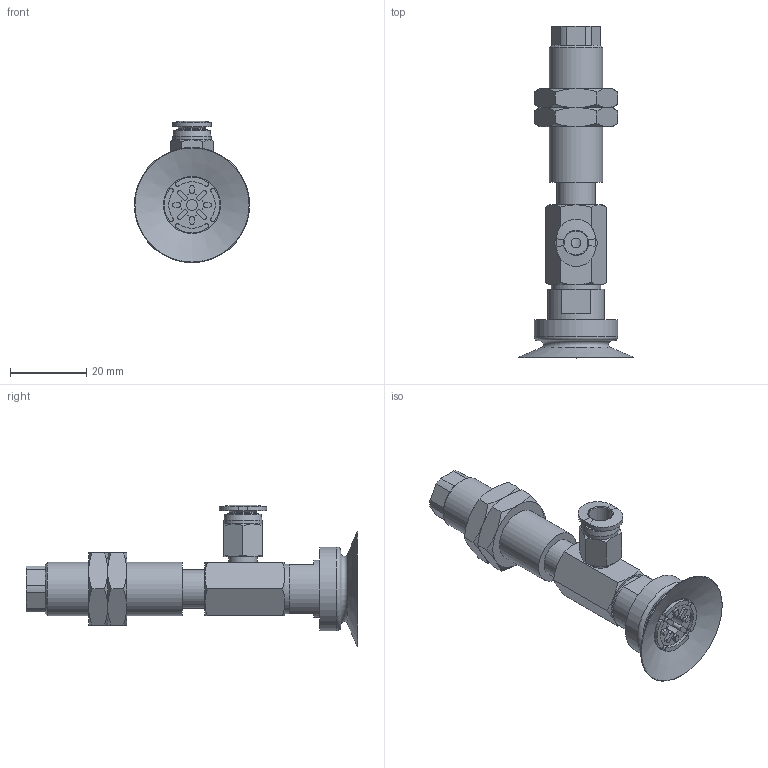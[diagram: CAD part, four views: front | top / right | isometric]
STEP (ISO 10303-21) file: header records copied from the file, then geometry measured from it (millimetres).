
FILE_DESCRIPTION(('STEP AP203'),'1');
FILE_NAME('-O.stp','2025-02-28T02:24:51',(' '),(' '),'Spatial InterOp 3D',' ',' ');
FILE_SCHEMA(('CONFIG_CONTROL_DESIGN'));
Length unit declared in the file: millimetre
Products named in the file (7): BNABPAYS-30-6-※-O; NAPAYS-30B-6--M; NAPAYS-30B-6--F; Nut-25-S; CONNECTOR-30B-6-PA; PC-C_06-M5; BPAG-30-※
Assembly tree (7 placements, depth 2):
  BNABPAYS-30-6-※-O
    NAPAYS-30B-6--M
    NAPAYS-30B-6--F
    Nut-25-S  x2
    CONNECTOR-30B-6-PA
    PC-C_06-M5
    BPAG-30-※
Bounding box: 30.3 x 87.2 x 37.13 mm (x, y, z)
Volume: 15490.8 mm3; surface area: 12660 mm2
Topology: 6 solids, 9 shells, 249 faces, 556 edges, 347 vertices
Faces by surface type: plane 104, cone 67, cylinder 67, bspline 4, torus 4, revolution 3
Full cylindrical faces by diameter (mm): 3 x2, 4 x2, 4.134 x2, 4.6 x1, 4.917 x1, 5 x2, 6 x1, 7 x1, 7.4 x1, 8.2 x1, 10 x3, 12.917 x2, 13 x1, 14 x1, 15 x1, 22 x1
Entity records: 6944 total; most frequent: CARTESIAN_POINT 1752, DIRECTION 1037, ORIENTED_EDGE 918, EDGE_CURVE 461, AXIS2_PLACEMENT_3D 428, VERTEX_POINT 315, EDGE_LOOP 304, CIRCLE 202
